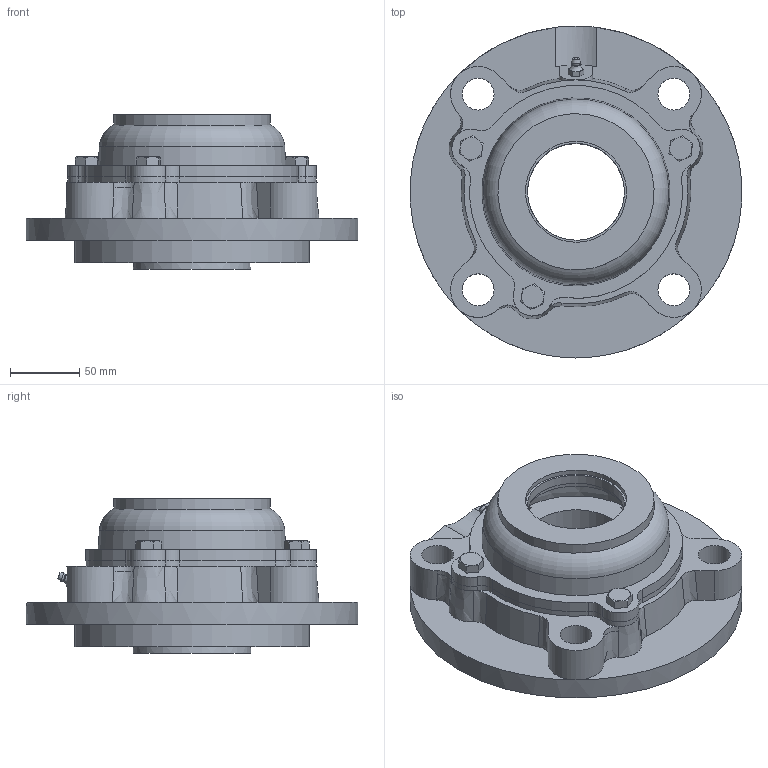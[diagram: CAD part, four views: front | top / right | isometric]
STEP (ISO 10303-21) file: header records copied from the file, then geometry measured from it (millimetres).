
FILE_DESCRIPTION((''),'2;1');
FILE_NAME('\\Ts-tgl068\j-cad-d-base\00.3DCADデータ作成フォルダ\02.フランジ形\CUKFC200\CUKFC216C+H.stp','2014-05-22T08:55:42',('btec_1106_2'),(''),'Autodesk Inventor 2012','Autodesk Inventor 2012','');
FILE_SCHEMA(('AUTOMOTIVE_DESIGN { 1 0 10303 214 1 1 1 1 }'));
Length unit declared in the file: millimetre
Products named in the file (7): CUKFC200C+H; CFC216; UK216; G1; 216C70R; 216C70; M10X1
Assembly tree (8 placements, depth 3):
  CUKFC200C+H
    CFC216
    UK216
    G1
    216C70R
      216C70
      M10X1  x3
Bounding box: 240 x 240 x 112 mm (x, y, z)
Volume: 1594565.7 mm3; surface area: 285780.6 mm2
Topology: 7 solids, 7 shells, 330 faces, 814 edges, 516 vertices
Faces by surface type: plane 130, cylinder 96, cone 79, bspline 17, sphere 4, torus 4
Full cylindrical faces by diameter (mm): 8.376 x3, 8.566 x1, 9.728 x1, 10 x3, 12 x3, 23 x4, 70 x2, 73 x2, 80 x1, 98.5 x2, 113 x1, 137 x1, 142 x2, 170 x1, 240 x1
Entity records: 9389 total; most frequent: CARTESIAN_POINT 2579, DIRECTION 1374, ORIENTED_EDGE 1368, EDGE_CURVE 684, AXIS2_PLACEMENT_3D 575, VERTEX_POINT 454, EDGE_LOOP 378, FACE_OUTER_BOUND 296
